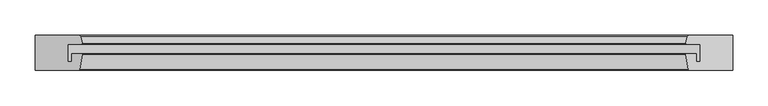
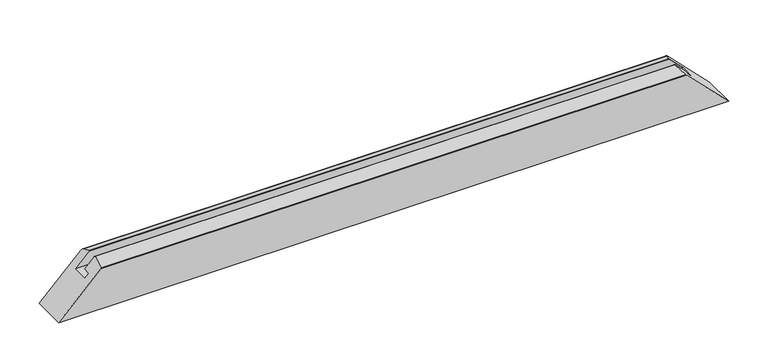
"""IFC4 building model written with IfcOpenShell, lengths in millimetres: proxy geometry, Weiku - Montante - Caixilho fixo 02.2.01.005 : Weiku - Montante - Caixilho fixo 02.2.01.005."""

from ifc_helpers import new_model, si_unit, frame, origin, place, context, project, spatial, ellipse_curve, source, transform, mapped, element, save
from ifc_brep_helpers import plane_surface, cylinder_surface, advanced_brep


def generic_models_b99816a6(model_context):
    return source(origin(), model_context, "Body", "AdvancedBrep", [
        advanced_brep(
        [(-428.118227, 38.5070552, 66.881773), (-430.6019557, 47.7764571, 64.3980443), (-433.4997332, 50.0, 61.5002668), (-495.0, 50.0, 0.0), (-495.0, 0.0, 0.0), (-432.5355572, 0.0, 62.4644428), (-431.5489094, 0.8371317, 63.4510906), (-427.9998537, 22.3371317, 67.0001463), (-428.9865015, 23.5, 66.0134985), (-443.0009154, 23.5, 51.9990846), (-443.0009154, 12.5, 51.9990846), (-449.0, 12.5, 46.0), (-449.0, 37.5, 46.0), (-428.8909676, 37.5, 66.1090324), (430.6019557, 47.7764571, 64.3980443), (428.118227, 38.5070552, 66.881773), (428.8909676, 37.5, 66.1090324), (449.0, 37.5, 46.0), (449.0, 12.5, 46.0), (443.0009154, 12.5, 51.9990846), (443.0009154, 23.5, 51.9990846), (428.9865015, 23.5, 66.0134985), (427.9998537, 22.3371317, 67.0001463), (431.5489094, 0.8371317, 63.4510906), (432.5355572, 0.0, 62.4644428), (495.0, 0.0, 0.0), (495.0, 50.0, 0.0), (433.4997332, 50.0, 61.5002668)],
        [
            (0, 1),
            (1, 2, ellipse_curve(frame((-433.4997332, 47.0, 61.5002668), z_axis=(-0.7071067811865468, 0.0, 0.7071067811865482), x_axis=(-0.7071067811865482, 0.0, -0.7071067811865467)), 4.2426407, 3.0)),
            (2, 3),
            (3, 4),
            (4, 5),
            (5, 6, ellipse_curve(frame((-432.5355572, 1.0, 62.4644428), z_axis=(-0.7071067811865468, 0.0, 0.7071067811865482), x_axis=(-0.7071067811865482, 0.0, -0.7071067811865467)), 1.4142136, 1.0)),
            (6, 7),
            (7, 8, ellipse_curve(frame((-428.9865015, 22.5, 66.0134985), z_axis=(-0.7071067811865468, 0.0, 0.7071067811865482), x_axis=(-0.7071067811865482, 0.0, -0.7071067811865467)), 1.4142136, 1.0)),
            (8, 9),
            (9, 10),
            (10, 11),
            (11, 12),
            (12, 13),
            (13, 0, ellipse_curve(frame((-428.8909676, 38.3, 66.1090324), z_axis=(-0.7071067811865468, 0.0, 0.7071067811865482), x_axis=(-0.7071067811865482, 0.0, -0.7071067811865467)), 1.1313708, 0.8)),
            (14, 15),
            (15, 16, ellipse_curve(frame((428.8909676, 38.3, 66.1090324), z_axis=(0.7071067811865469, 0.0, 0.7071067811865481), x_axis=(-0.7071067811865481, 0.0, 0.7071067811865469)), 1.1313708, 0.8)),
            (16, 17),
            (17, 18),
            (18, 19),
            (19, 20),
            (20, 21),
            (21, 22, ellipse_curve(frame((428.9865015, 22.5, 66.0134985), z_axis=(0.7071067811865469, 0.0, 0.7071067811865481), x_axis=(-0.7071067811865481, 0.0, 0.7071067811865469)), 1.4142136, 1.0)),
            (22, 23),
            (23, 24, ellipse_curve(frame((432.5355572, 1.0, 62.4644428), z_axis=(0.7071067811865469, 0.0, 0.7071067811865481), x_axis=(-0.7071067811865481, 0.0, 0.7071067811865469)), 1.4142136, 1.0)),
            (24, 25),
            (25, 26),
            (26, 27),
            (27, 14, ellipse_curve(frame((433.4997332, 47.0, 61.5002668), z_axis=(0.7071067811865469, 0.0, 0.7071067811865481), x_axis=(-0.7071067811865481, 0.0, 0.7071067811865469)), 4.2426407, 3.0)),
            (0, 15),
            (14, 1),
            (27, 2),
            (26, 3),
            (25, 4),
            (24, 5),
            (23, 6),
            (22, 7),
            (21, 8),
            (20, 9),
            (19, 10),
            (18, 11),
            (17, 12),
            (16, 13),
        ],
        [
            plane_surface(frame((-565.0, -15.0, -70.0), z_axis=(-0.7071067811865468, 0.0, 0.7071067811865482), x_axis=(0.0, 1.0, 0.0))),
            plane_surface(frame((425.0, -15.0, 70.0), z_axis=(0.7071067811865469, 0.0, 0.7071067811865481), x_axis=(0.0, 1.0, 0.0))),
            plane_surface(frame((-495.0, 38.5070552, 66.881773), z_axis=(0.0, 0.2588190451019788, 0.9659258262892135), x_axis=(1.0, 0.0, 0.0))),
            cylinder_surface(frame((-495.0, 47.0, 61.5002668), z_axis=(-1.0, 0.0, 0.0), x_axis=(0.0, -1.0, 0.0)), 3.0),
            plane_surface(frame((-495.0, 50.0, 61.5002668), z_axis=(0.0, 1.0, 0.0), x_axis=(1.0, 0.0, 0.0))),
            plane_surface(frame((-495.0, 50.0, 0.0), z_axis=(0.0, 0.0, -1.0), x_axis=(1.0, 0.0, 0.0))),
            plane_surface(frame((-495.0, 0.0, 0.0), z_axis=(0.0, -1.0, 0.0), x_axis=(1.0, 0.0, 0.0))),
            cylinder_surface(frame((-495.0, 1.0, 62.4644428), z_axis=(-1.0, 0.0, 0.0), x_axis=(0.0, 1.0, 0.0)), 1.0),
            plane_surface(frame((-495.0, 0.8371317, 63.4510906), z_axis=(0.0, -0.16286828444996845, 0.9866478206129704), x_axis=(1.0, 0.0, 0.0))),
            cylinder_surface(frame((-495.0, 22.5, 66.0134985), z_axis=(-1.0, 0.0, 0.0), x_axis=(0.0, 1.0, 0.0)), 1.0),
            plane_surface(frame((-495.0, 23.5, 66.0134985), z_axis=(0.0, 1.0, 0.0), x_axis=(1.0, 0.0, 0.0))),
            plane_surface(frame((-495.0, 23.5, 51.9990846), z_axis=(0.0, 0.0, -1.0), x_axis=(1.0, 0.0, 0.0))),
            plane_surface(frame((-495.0, 12.5, 51.9990846), z_axis=(0.0, 1.0, 0.0), x_axis=(1.0, 0.0, 0.0))),
            plane_surface(frame((-495.0, 12.5, 46.0), z_axis=(0.0, 0.0, 1.0), x_axis=(1.0, 0.0, 0.0))),
            plane_surface(frame((-495.0, 37.5, 46.0), z_axis=(0.0, -1.0, 0.0), x_axis=(1.0, 0.0, 0.0))),
            cylinder_surface(frame((-495.0, 38.3, 66.1090324), z_axis=(-1.0, 0.0, 0.0), x_axis=(0.0, -1.0, 0.0)), 0.8),
        ],
        [
            (0, [[1, 2, 3, 4, 5, 6, 7, 8, 9, 10, 11, 12, 13, 14]]),
            (1, [[15, 16, 17, 18, 19, 20, 21, 22, 23, 24, 25, 26, 27, 28]]),
            (2, [[-1, 29, -15, 30]]),
            (3, [[-2, -30, -28, 31]]),
            (4, [[32, -3, -31, -27]]),
            (5, [[-32, -26, 33, -4]]),
            (6, [[-33, -25, 34, -5]]),
            (7, [[-6, -34, -24, 35]]),
            (8, [[-7, -35, -23, 36]]),
            (9, [[-8, -36, -22, 37]]),
            (10, [[-9, -37, -21, 38]]),
            (11, [[-10, -38, -20, 39]]),
            (12, [[-11, -39, -19, 40]]),
            (13, [[-12, -40, -18, 41]]),
            (14, [[-13, -41, -17, 42]]),
            (15, [[-14, -42, -16, -29]]),
        ],
    ),
    ])


if __name__ == "__main__":
    model = new_model("IFC4")
    model_context = context("Model", 3, world=origin())
    ifc_project = project(units=[si_unit("LENGTHUNIT", "METRE", prefix="MILLI")], contexts=[model_context])
    site = spatial("IfcSite", under=ifc_project)
    building = spatial("IfcBuilding", under=site)
    placement = place(None, origin())
    generic_models_shape = generic_models_b99816a6(model_context)
    element("IfcBuildingElementProxy", 1, Name="Weiku - Montante - Caixilho fixo 02.2.01.005 : Weiku - Montante - Caixilho fixo 02.2.01.005", ObjectType="Weiku - Montante - Caixilho fixo 02.2.01.005 : Weiku - Montante - Caixilho fixo 02.2.01.005", at=placement, inside=building, context=model_context, shape_type="MappedRepresentation", body=[
        mapped(generic_models_shape, transform((0.0, 0.0, 0.0), x_axis=(1.0, 0.0, 0.0), y_axis=(0.0, 1.0, 0.0), z_axis=(0.0, 0.0, 1.0))),
    ])
    save(model, "model.ifc")
